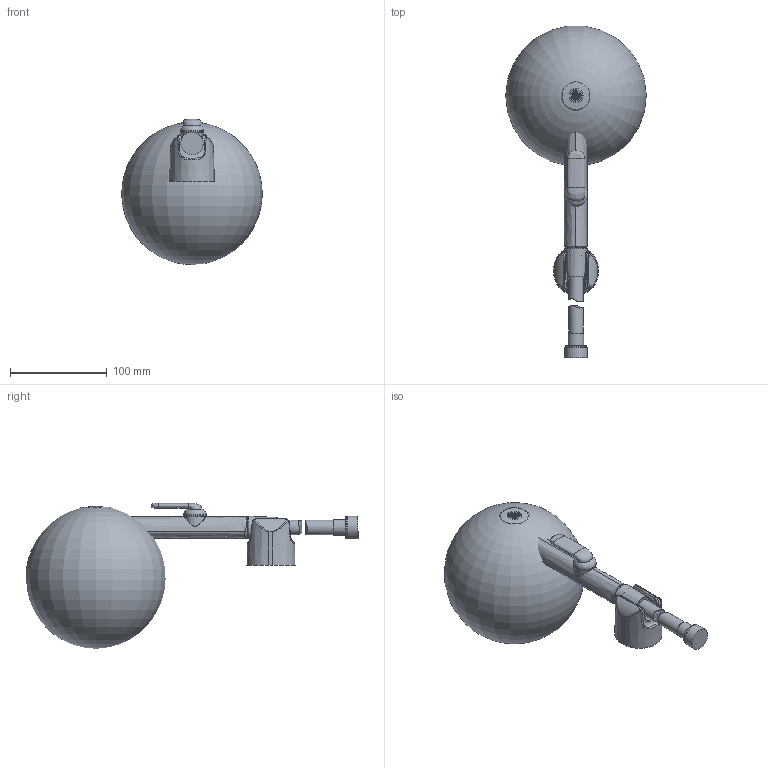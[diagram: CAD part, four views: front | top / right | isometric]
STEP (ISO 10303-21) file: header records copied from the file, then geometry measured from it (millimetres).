
FILE_DESCRIPTION (( 'STEP AP203' ), '1' );
FILE_NAME ('242050+251450.STEP', '2017-03-09T05:46:31', ( '' ), ( '' ), 'SwSTEP 2.0', 'SolidWorks 2016', '' );
FILE_SCHEMA (( 'CONFIG_CONTROL_DESIGN' ));
Length unit declared in the file: millimetre
Products named in the file (1): 242050+251450
Bounding box: 144.99 x 342.42 x 150.19 mm (x, y, z)
Volume: 1618411.3 mm3; surface area: 101623.6 mm2
Topology: 4 solids, 4 shells, 99 faces, 221 edges, 133 vertices
Faces by surface type: bspline 46, cylinder 20, plane 17, torus 7, cone 5, sphere 4
Full cylindrical faces by diameter (mm): 15 x2, 16.1 x1, 21 x1, 22.6 x1, 22.95 x1, 23.689 x1, 31.169 x1, 31.93 x1
Entity records: 8973 total; most frequent: CARTESIAN_POINT 7225, ORIENTED_EDGE 372, DIRECTION 241, EDGE_CURVE 186, EDGE_LOOP 126, VERTEX_POINT 122, FACE_OUTER_BOUND 117, AXIS2_PLACEMENT_3D 109
